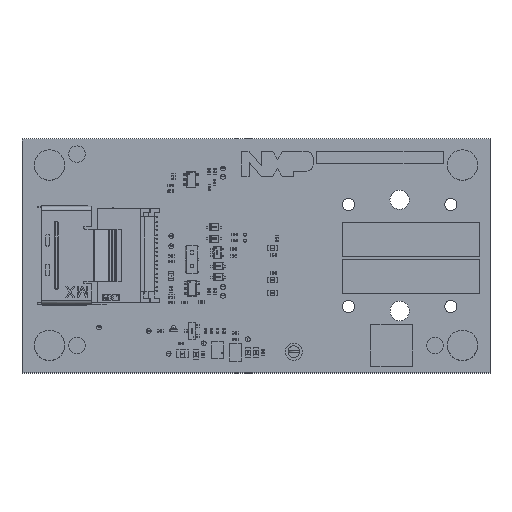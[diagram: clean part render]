
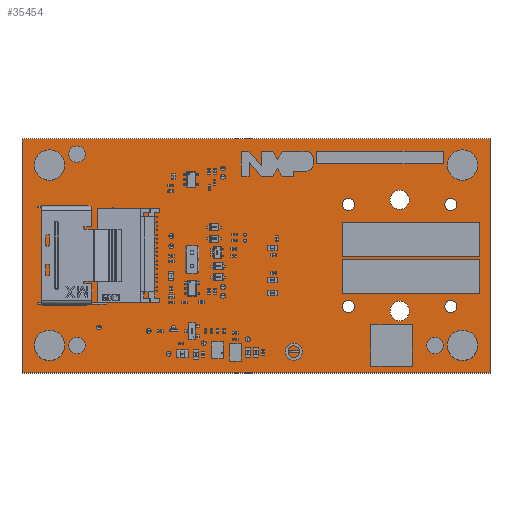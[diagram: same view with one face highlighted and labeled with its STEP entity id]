
A CAD part, top view. The second image highlights one B-rep face of the part: STEP entity #35454.
In plain terms, the highlighted planar face has unit normal (0, 0, 1).
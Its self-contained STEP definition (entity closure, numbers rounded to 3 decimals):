
#11799=CIRCLE($,#28452,1.778);
#11800=CIRCLE($,#28453,1.778);
#11803=CIRCLE($,#28458,1.778);
#11804=CIRCLE($,#28459,1.778);
#11807=CIRCLE($,#28464,1.125);
#11808=CIRCLE($,#28465,1.125);
#11811=CIRCLE($,#28470,1.125);
#11812=CIRCLE($,#28471,1.125);
#11815=CIRCLE($,#28476,1.125);
#11816=CIRCLE($,#28477,1.125);
#11819=CIRCLE($,#28482,1.125);
#11820=CIRCLE($,#28483,1.125);
#11823=CIRCLE($,#28488,0.775);
#11824=CIRCLE($,#28489,0.775);
#11827=CIRCLE($,#28494,0.775);
#11828=CIRCLE($,#28495,0.775);
#20220=FACE_OUTER_BOUND($,#24207,.F.);
#20226=FACE_OUTER_BOUND($,#24213,.T.);
#20230=FACE_OUTER_BOUND($,#24217,.T.);
#20234=FACE_OUTER_BOUND($,#24221,.T.);
#20238=FACE_OUTER_BOUND($,#24225,.T.);
#20242=FACE_OUTER_BOUND($,#24229,.T.);
#20246=FACE_OUTER_BOUND($,#24233,.T.);
#20250=FACE_OUTER_BOUND($,#24237,.T.);
#20254=FACE_OUTER_BOUND($,#24241,.T.);
#24207=EDGE_LOOP($,(#39425,#39426,#39427,#39428));
#24213=EDGE_LOOP($,(#39449,#39450));
#24217=EDGE_LOOP($,(#39461,#39462));
#24221=EDGE_LOOP($,(#39473,#39474));
#24225=EDGE_LOOP($,(#39485,#39486));
#24229=EDGE_LOOP($,(#39497,#39498));
#24233=EDGE_LOOP($,(#39509,#39510));
#24237=EDGE_LOOP($,(#39521,#39522));
#24241=EDGE_LOOP($,(#39533,#39534));
#28446=AXIS2_PLACEMENT_3D($,#111305,#95420,$);
#28452=AXIS2_PLACEMENT_3D($,#111317,#95420,$);
#28453=AXIS2_PLACEMENT_3D($,#111318,#95420,$);
#28458=AXIS2_PLACEMENT_3D($,#111329,#95420,$);
#28459=AXIS2_PLACEMENT_3D($,#111330,#95420,$);
#28464=AXIS2_PLACEMENT_3D($,#111341,#95420,$);
#28465=AXIS2_PLACEMENT_3D($,#111342,#95420,$);
#28470=AXIS2_PLACEMENT_3D($,#111353,#95420,$);
#28471=AXIS2_PLACEMENT_3D($,#111354,#95420,$);
#28476=AXIS2_PLACEMENT_3D($,#111365,#95420,$);
#28477=AXIS2_PLACEMENT_3D($,#111366,#95420,$);
#28482=AXIS2_PLACEMENT_3D($,#111377,#95420,$);
#28483=AXIS2_PLACEMENT_3D($,#111378,#95420,$);
#28488=AXIS2_PLACEMENT_3D($,#111389,#95420,$);
#28489=AXIS2_PLACEMENT_3D($,#111390,#95420,$);
#28494=AXIS2_PLACEMENT_3D($,#111401,#95420,$);
#28495=AXIS2_PLACEMENT_3D($,#111402,#95420,$);
#32646=PLANE($,#28446);
#35454=ADVANCED_FACE($,(#20220,#20226,#20230,#20234,#20238,#20242,#20246,
#20250,#20254),#32646,.T.);
#39425=ORIENTED_EDGE($,*,*,#60929,.T.);
#39426=ORIENTED_EDGE($,*,*,#60930,.T.);
#39427=ORIENTED_EDGE($,*,*,#60931,.T.);
#39428=ORIENTED_EDGE($,*,*,#60932,.T.);
#39449=ORIENTED_EDGE($,*,*,#60942,.T.);
#39450=ORIENTED_EDGE($,*,*,#60943,.T.);
#39461=ORIENTED_EDGE($,*,*,#60949,.T.);
#39462=ORIENTED_EDGE($,*,*,#60950,.T.);
#39473=ORIENTED_EDGE($,*,*,#60956,.T.);
#39474=ORIENTED_EDGE($,*,*,#60957,.T.);
#39485=ORIENTED_EDGE($,*,*,#60963,.T.);
#39486=ORIENTED_EDGE($,*,*,#60964,.T.);
#39497=ORIENTED_EDGE($,*,*,#60970,.T.);
#39498=ORIENTED_EDGE($,*,*,#60971,.T.);
#39509=ORIENTED_EDGE($,*,*,#60977,.T.);
#39510=ORIENTED_EDGE($,*,*,#60978,.T.);
#39521=ORIENTED_EDGE($,*,*,#60984,.T.);
#39522=ORIENTED_EDGE($,*,*,#60985,.T.);
#39533=ORIENTED_EDGE($,*,*,#60991,.T.);
#39534=ORIENTED_EDGE($,*,*,#60992,.T.);
#60929=EDGE_CURVE($,#87735,#87736,#79719,.T.);
#60930=EDGE_CURVE($,#87736,#87737,#79720,.T.);
#60931=EDGE_CURVE($,#87737,#87738,#79721,.T.);
#60932=EDGE_CURVE($,#87738,#87735,#79722,.T.);
#60942=EDGE_CURVE($,#87745,#87746,#11799,.F.);
#60943=EDGE_CURVE($,#87746,#87745,#11800,.F.);
#60949=EDGE_CURVE($,#87751,#87752,#11803,.F.);
#60950=EDGE_CURVE($,#87752,#87751,#11804,.F.);
#60956=EDGE_CURVE($,#87757,#87758,#11807,.F.);
#60957=EDGE_CURVE($,#87758,#87757,#11808,.F.);
#60963=EDGE_CURVE($,#87763,#87764,#11811,.F.);
#60964=EDGE_CURVE($,#87764,#87763,#11812,.F.);
#60970=EDGE_CURVE($,#87769,#87770,#11815,.F.);
#60971=EDGE_CURVE($,#87770,#87769,#11816,.F.);
#60977=EDGE_CURVE($,#87775,#87776,#11819,.F.);
#60978=EDGE_CURVE($,#87776,#87775,#11820,.F.);
#60984=EDGE_CURVE($,#87781,#87782,#11823,.F.);
#60985=EDGE_CURVE($,#87782,#87781,#11824,.F.);
#60991=EDGE_CURVE($,#87787,#87788,#11827,.F.);
#60992=EDGE_CURVE($,#87788,#87787,#11828,.F.);
#71703=VECTOR($,#95423,43.18);
#71704=VECTOR($,#95424,86.36);
#71705=VECTOR($,#95425,43.18);
#71706=VECTOR($,#95426,86.36);
#79719=LINE($,#111304,#71703);
#79720=LINE($,#111305,#71704);
#79721=LINE($,#111306,#71705);
#79722=LINE($,#111307,#71706);
#87735=VERTEX_POINT($,#111304);
#87736=VERTEX_POINT($,#111305);
#87737=VERTEX_POINT($,#111306);
#87738=VERTEX_POINT($,#111307);
#87745=VERTEX_POINT($,#111314);
#87746=VERTEX_POINT($,#111315);
#87751=VERTEX_POINT($,#111326);
#87752=VERTEX_POINT($,#111327);
#87757=VERTEX_POINT($,#111338);
#87758=VERTEX_POINT($,#111339);
#87763=VERTEX_POINT($,#111350);
#87764=VERTEX_POINT($,#111351);
#87769=VERTEX_POINT($,#111362);
#87770=VERTEX_POINT($,#111363);
#87775=VERTEX_POINT($,#111374);
#87776=VERTEX_POINT($,#111375);
#87781=VERTEX_POINT($,#111386);
#87782=VERTEX_POINT($,#111387);
#87787=VERTEX_POINT($,#111398);
#87788=VERTEX_POINT($,#111399);
#95420=DIRECTION($,(0.,0.,1.));
#95423=DIRECTION($,(0.,1.,0.));
#95424=DIRECTION($,(1.,0.,0.));
#95425=DIRECTION($,(0.,-1.,0.));
#95426=DIRECTION($,(-1.,0.,0.));
#111304=CARTESIAN_POINT('',(-5.08,-5.08,0.));
#111305=CARTESIAN_POINT('',(-5.08,38.1,0.));
#111306=CARTESIAN_POINT('',(81.28,38.1,0.));
#111307=CARTESIAN_POINT('',(81.28,-5.08,0.));
#111314=CARTESIAN_POINT('',(66.378,26.877,0.));
#111315=CARTESIAN_POINT('',(62.822,26.877,0.));
#111317=CARTESIAN_POINT('',(64.6,26.877,0.));
#111318=CARTESIAN_POINT('',(64.6,26.877,0.));
#111326=CARTESIAN_POINT('',(66.386,6.363,0.));
#111327=CARTESIAN_POINT('',(62.83,6.363,0.));
#111329=CARTESIAN_POINT('',(64.608,6.363,0.));
#111330=CARTESIAN_POINT('',(64.608,6.363,0.));
#111338=CARTESIAN_POINT('',(56.287,7.162,0.));
#111339=CARTESIAN_POINT('',(54.037,7.162,0.));
#111341=CARTESIAN_POINT('',(55.162,7.162,0.));
#111342=CARTESIAN_POINT('',(55.162,7.162,0.));
#111350=CARTESIAN_POINT('',(56.287,26.043,0.));
#111351=CARTESIAN_POINT('',(54.037,26.043,0.));
#111353=CARTESIAN_POINT('',(55.162,26.043,0.));
#111354=CARTESIAN_POINT('',(55.162,26.043,0.));
#111362=CARTESIAN_POINT('',(75.168,26.037,0.));
#111363=CARTESIAN_POINT('',(72.918,26.037,0.));
#111365=CARTESIAN_POINT('',(74.043,26.037,0.));
#111366=CARTESIAN_POINT('',(74.043,26.037,0.));
#111374=CARTESIAN_POINT('',(75.162,7.162,0.));
#111375=CARTESIAN_POINT('',(72.912,7.162,0.));
#111377=CARTESIAN_POINT('',(74.037,7.162,0.));
#111378=CARTESIAN_POINT('',(74.037,7.162,0.));
#111386=CARTESIAN_POINT('',(12.497,24.637,0.));
#111387=CARTESIAN_POINT('',(10.947,24.637,0.));
#111389=CARTESIAN_POINT('',(11.722,24.637,0.));
#111390=CARTESIAN_POINT('',(11.722,24.637,0.));
#111398=CARTESIAN_POINT('',(12.497,8.637,0.));
#111399=CARTESIAN_POINT('',(10.947,8.637,0.));
#111401=CARTESIAN_POINT('',(11.722,8.637,0.));
#111402=CARTESIAN_POINT('',(11.722,8.637,0.));
